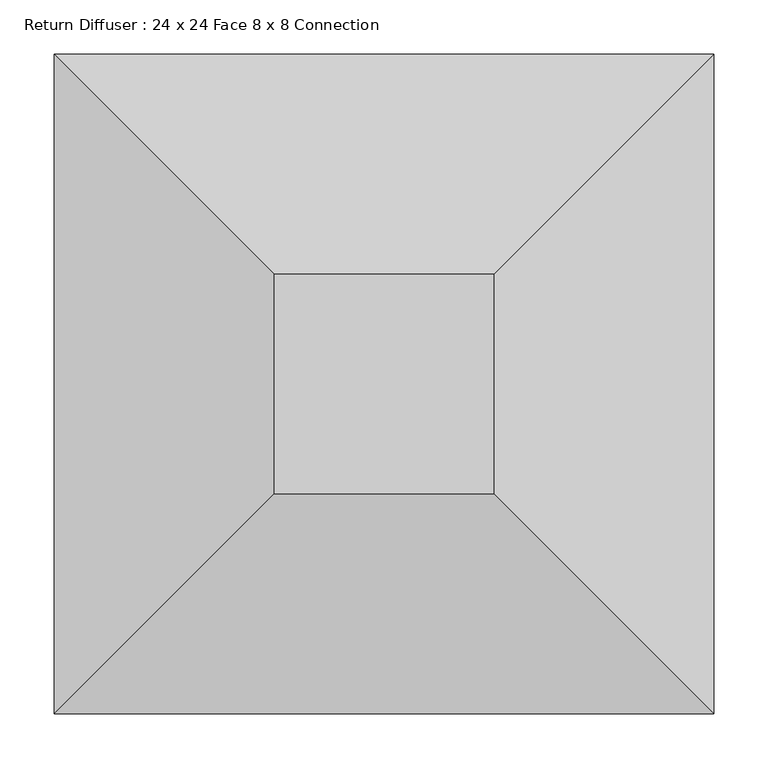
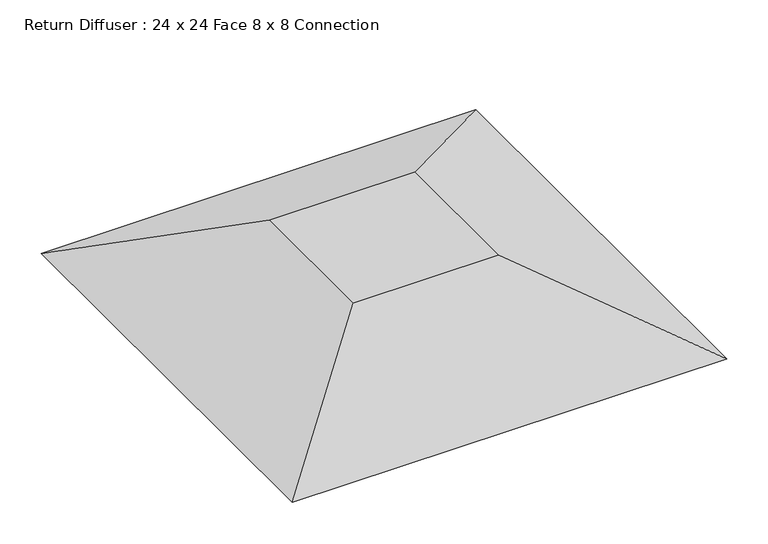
"""IFC4 building model written with IfcOpenShell, lengths in millimetres: air terminal geometry, Return Diffuser : 24 x 24 Face 8 x 8 Connection."""

from ifc_helpers import new_model, si_unit, origin, place, context, project, spatial, faceted_brep, source, transform, mapped, element, save


def return_diffuser_24_x_24_face_8_x_8_connection_c93705df(model_context):
    return source(origin(), model_context, "Body", "Brep", [
        faceted_brep([(101.6, -101.6, 101.6), (101.6, 101.6, 101.6), (-101.6, 101.6, 101.6), (-101.6, -101.6, 101.6), (304.8, -304.8, 0.0), (-304.8, -304.8, 0.0), (-304.8, 304.8, 0.0), (304.8, 304.8, 0.0)], [[[0, 1, 2, 3]], [[4, 5, 6, 7]], [[4, 0, 3, 5]], [[5, 3, 2, 6]], [[6, 2, 1, 7]], [[7, 1, 0, 4]]]),
    ])


if __name__ == "__main__":
    model = new_model("IFC4")
    model_context = context("Model", 3, world=origin())
    ifc_project = project(units=[si_unit("LENGTHUNIT", "METRE", prefix="MILLI")], contexts=[model_context])
    site = spatial("IfcSite", under=ifc_project)
    building = spatial("IfcBuilding", under=site)
    placement = place(None, origin())
    return_diffuser_24_x_24_face_8_x_8_connection_shape = return_diffuser_24_x_24_face_8_x_8_connection_c93705df(model_context)
    element("IfcAirTerminal", 1, ObjectType="Return Diffuser : 24 x 24 Face 8 x 8 Connection", at=placement, inside=building, context=model_context, shape_type="MappedRepresentation", body=[
        mapped(return_diffuser_24_x_24_face_8_x_8_connection_shape, transform((0.0, 0.0, 0.0), x_axis=(1.0, 0.0, 0.0), y_axis=(0.0, 1.0, 0.0), z_axis=(0.0, 0.0, 1.0))),
    ])
    save(model, "model.ifc")
